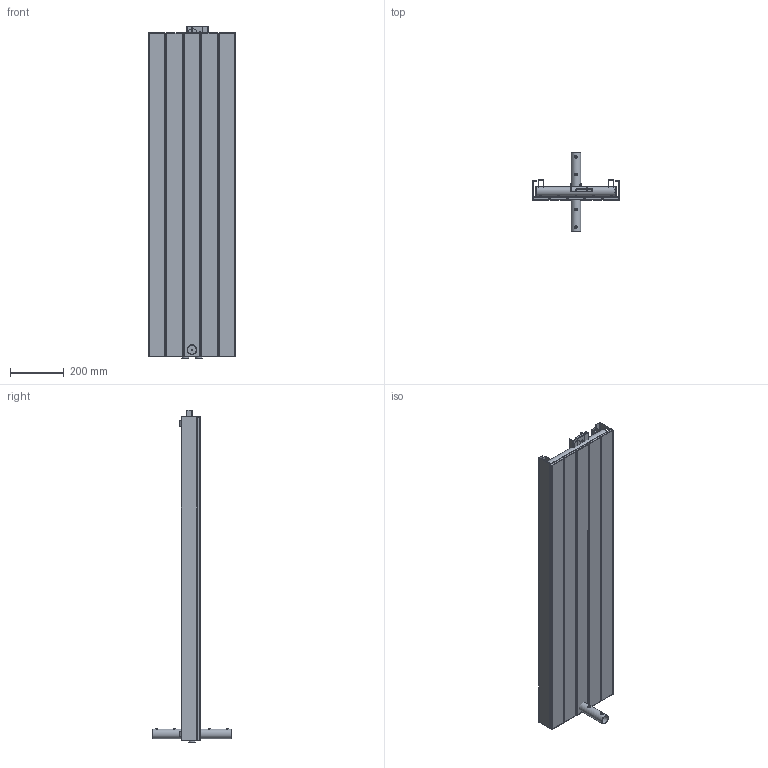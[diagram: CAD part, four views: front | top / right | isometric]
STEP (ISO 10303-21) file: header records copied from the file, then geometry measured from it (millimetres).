
FILE_DESCRIPTION( ( 'Unknown' ), '1' );
FILE_NAME( 'D:/Alplast sp. j/Witryna zespoBu - Projekty/Archiwum/Grzejniki Archiwum/Projekty/DESIGN PROGRAM/GRZEJNIK CAJA/CAJA 3.stp', 'Unknown', ( 'Unknown' ), ( 'Unknown' ), 'PSStep 10.1', 'Unknown', ' ' );
FILE_SCHEMA( ( 'AUTOMOTIVE_DESIGN { 1 0 10303 214 1 1 1 1 }' ) );
Length unit declared in the file: millimetre
Products named in the file (27): Assem1; CAJA kolektor 320 D-50; mufka; mufka-oa0; Zaslepka fi 35; Zaslepka fi 35-oa1; Zaslepka fi 35-oa2; rura 60x10  1200; rura 60x10  1200-oa3; rura 60x10  1200-oa4; rura 60x10  1200-oa5; rura 60x10  1200-oa6; CAJA kolektor 320; Zaslepka fi 35 z gwintem ; os³ona boczna 1200 z otworem; os³ona boczna 1200; radiator tylny 1200; radiator tylny 1200-oa7; radiator tylny 1200-oa8; radiator tylny 1200-oa9; radiator tylny 1200-oa10; radiator tylny 1200-oa11; prêt wzmacniaj¹cy caja 1,3; mocowanie ceownik; mocowanie ceownik-oa12; mocowanie ceownik-oa13; mocowanie ceownik-oa14
Bounding box: 320 x 296 x 1230 mm (x, y, z)
Volume: 3567795.6 mm3; surface area: 5748977.1 mm2
Topology: 52 solids, 52 shells, 992 faces, 2452 edges, 1524 vertices
Faces by surface type: plane 508, cylinder 324, sphere 80, cone 40, extrusion 20, torus 16, bspline 4
Full cylindrical faces by diameter (mm): 6.023 x20, 8 x20, 15 x4, 18.631 x2, 19 x4, 25 x12, 32 x6, 35 x12
Entity records: 23198 total; most frequent: CARTESIAN_POINT 7765, DIRECTION 2332, ORIENTED_EDGE 2100, EDGE_CURVE 1050, AXIS2_PLACEMENT_3D 861, VERTEX_POINT 710, EDGE_LOOP 646, VECTOR 610
